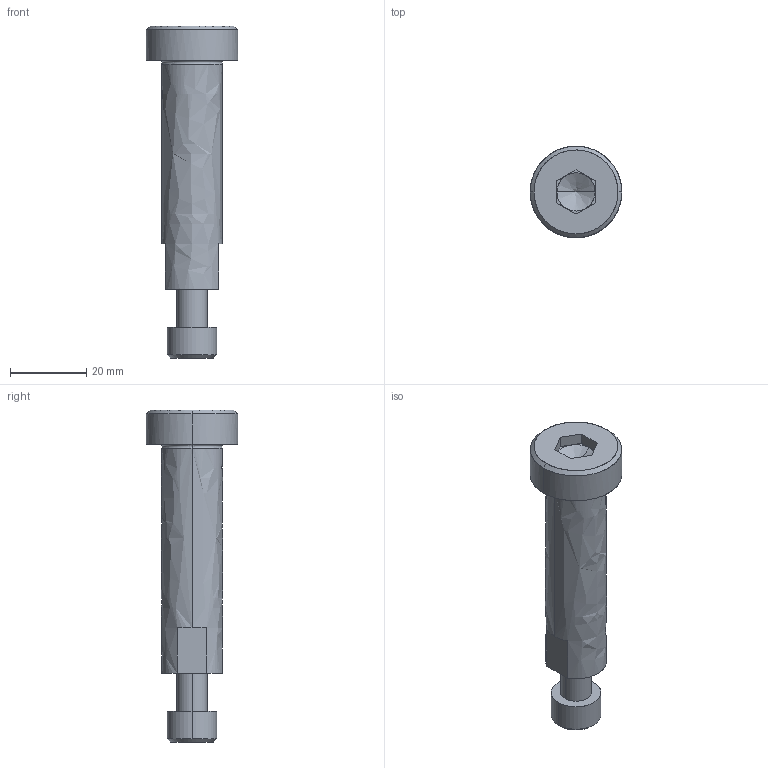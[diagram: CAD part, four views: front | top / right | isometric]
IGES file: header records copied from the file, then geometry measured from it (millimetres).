
Global section: file name: E:\UnigraphicsGraphicData\MISUMI_PRESS-PARTS\IGES\3d_sbt16-60_05067_r00.igs; native system: NX V5.0; preprocessor: UGS NX IGES V5.0; author: MISUMI; date: 20110105.162439; units: millimetre
Bounding box: 24 x 24 x 87 mm (x, y, z)
Surface area: 6612.8 mm2 (no closed solid volume)
Topology: 0 solids, 0 shells, 56 faces, 310 edges, 306 vertices
Faces by surface type: bspline 56
